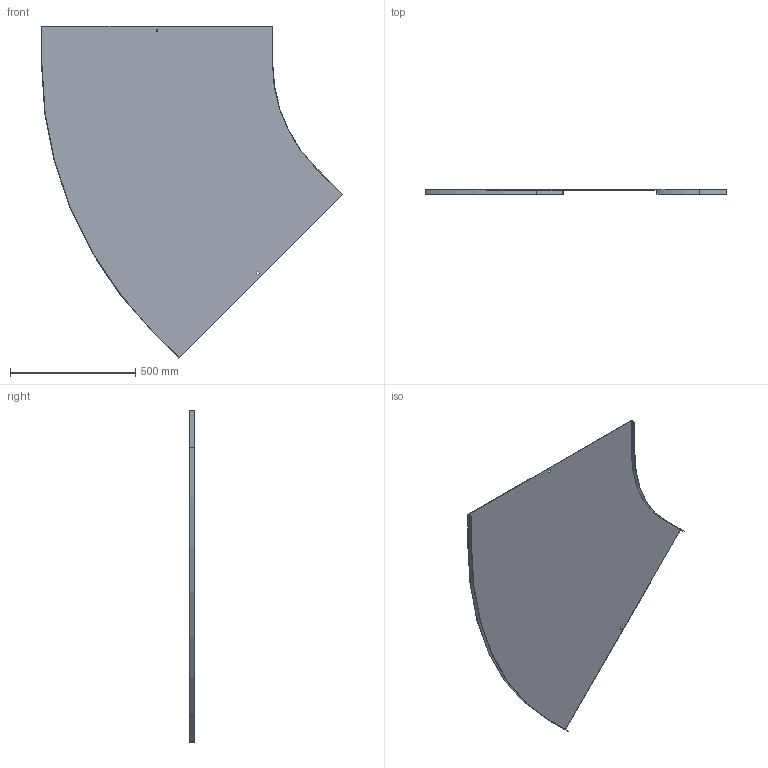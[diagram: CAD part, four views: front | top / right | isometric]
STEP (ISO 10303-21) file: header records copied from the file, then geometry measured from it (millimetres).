
FILE_DESCRIPTION (( 'STEP AP214' ), '1' );
FILE_NAME ('11N6P900.step', '2025-02-21T13:35:51', ( '' ), ( '' ), 'SwSTEP 2.0', 'SolidWorks 2023', '' );
FILE_SCHEMA (( 'AUTOMOTIVE_DESIGN' ));
Length unit declared in the file: millimetre
Products named in the file (1): 11N6P900
Bounding box: 1201.43 x 20 x 1324.86 mm (x, y, z)
Volume: 1619346.5 mm3; surface area: 2165475.7 mm2
Topology: 1 solids, 1 shells, 26 faces, 72 edges, 48 vertices
Faces by surface type: plane 22, cylinder 4
Entity records: 855 total; most frequent: CARTESIAN_POINT 147, ORIENTED_EDGE 144, DIRECTION 134, EDGE_CURVE 72, VECTOR 64, LINE 64, VERTEX_POINT 48, AXIS2_PLACEMENT_3D 35
